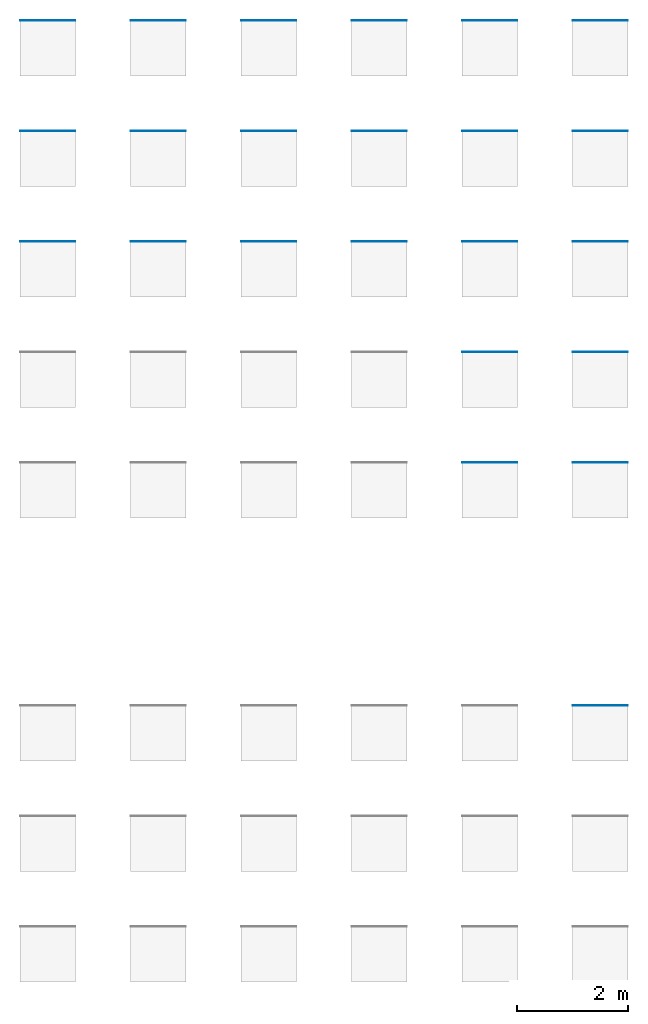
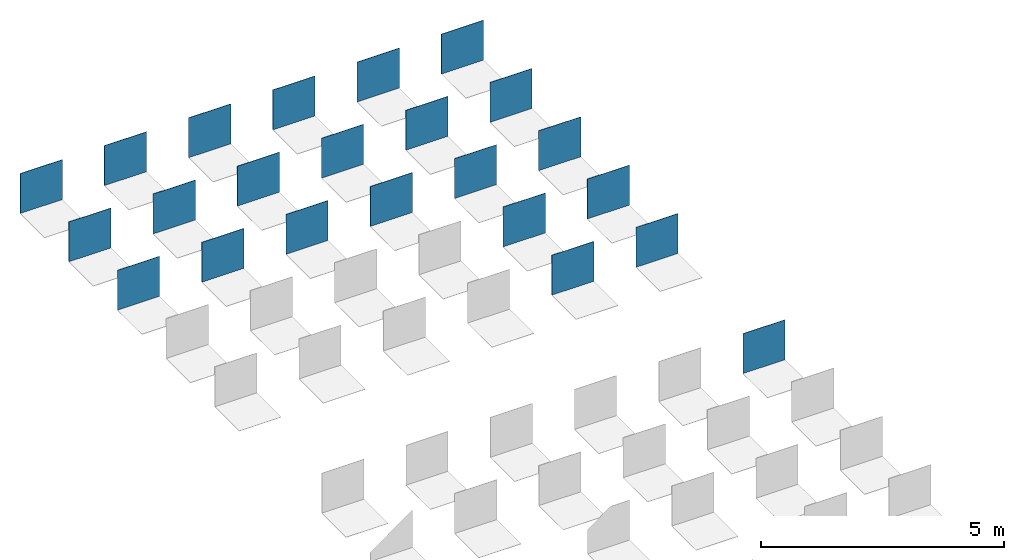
# One storey, part 2 of 4: 23 walls.
"""IFC2X3 building model written with IfcOpenShell, lengths in millimetres."""

from ifc_helpers import new_model, entity, si_unit, converted_unit, derived_unit, direction, frame, frame_2d, origin, place, context, subcontext, project, spatial, rectangle, extrude, material, layer, layer_set, layer_usage, type_object, element, save


model = new_model("IFC2X3")

# Units and contexts
model_context = context("Model", 3, precision=0.01, world=origin(), true_north=direction((6.12303176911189e-17, 1.0)))
body_context = subcontext(model_context, "Body", "Model", "MODEL_VIEW")
ifc_project = project(units=[si_unit("LENGTHUNIT", "METRE", prefix="MILLI"), si_unit("AREAUNIT", "SQUARE_METRE"), si_unit("VOLUMEUNIT", "CUBIC_METRE"), converted_unit("PLANEANGLEUNIT", "DEGREE", entity("IfcRatioMeasure", 0.0174532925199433), si_unit("PLANEANGLEUNIT", "RADIAN"), dimensions=[0, 0, 0, 0, 0, 0, 0]), si_unit("MASSUNIT", "GRAM", prefix="KILO"), derived_unit("MASSDENSITYUNIT", [(si_unit("MASSUNIT", "GRAM", prefix="KILO"), 1), (si_unit("LENGTHUNIT", "METRE"), -3)]), derived_unit("MOMENTOFINERTIAUNIT", [(si_unit("LENGTHUNIT", "METRE"), 4)]), si_unit("TIMEUNIT", "SECOND"), si_unit("FREQUENCYUNIT", "HERTZ"), si_unit("THERMODYNAMICTEMPERATUREUNIT", "DEGREE_CELSIUS"), derived_unit("THERMALTRANSMITTANCEUNIT", [(si_unit("MASSUNIT", "GRAM", prefix="KILO"), 1), (si_unit("THERMODYNAMICTEMPERATUREUNIT", "KELVIN"), -1), (si_unit("TIMEUNIT", "SECOND"), -3)]), derived_unit("VOLUMETRICFLOWRATEUNIT", [(si_unit("LENGTHUNIT", "METRE"), 3), (si_unit("TIMEUNIT", "SECOND"), -1)]), si_unit("ELECTRICCURRENTUNIT", "AMPERE"), si_unit("ELECTRICVOLTAGEUNIT", "VOLT"), si_unit("POWERUNIT", "WATT"), si_unit("FORCEUNIT", "NEWTON", prefix="KILO"), si_unit("ILLUMINANCEUNIT", "LUX"), si_unit("LUMINOUSFLUXUNIT", "LUMEN"), si_unit("LUMINOUSINTENSITYUNIT", "CANDELA"), derived_unit("USERDEFINED", [(si_unit("MASSUNIT", "GRAM", prefix="KILO"), -1), (si_unit("LENGTHUNIT", "METRE"), -2), (si_unit("TIMEUNIT", "SECOND"), 3), (si_unit("LUMINOUSFLUXUNIT", "LUMEN"), 1)]), derived_unit("LINEARVELOCITYUNIT", [(si_unit("LENGTHUNIT", "METRE"), 1), (si_unit("TIMEUNIT", "SECOND"), -1)]), si_unit("PRESSUREUNIT", "PASCAL"), derived_unit("USERDEFINED", [(si_unit("LENGTHUNIT", "METRE"), -2), (si_unit("MASSUNIT", "GRAM", prefix="KILO"), 1), (si_unit("TIMEUNIT", "SECOND"), -2)]), derived_unit("LINEARFORCEUNIT", [(si_unit("MASSUNIT", "GRAM", prefix="KILO"), 1), (si_unit("LENGTHUNIT", "METRE"), 1), (si_unit("TIMEUNIT", "SECOND"), -2), (si_unit("LENGTHUNIT", "METRE"), -1)]), derived_unit("PLANARFORCEUNIT", [(si_unit("MASSUNIT", "GRAM", prefix="KILO"), 1), (si_unit("LENGTHUNIT", "METRE"), 1), (si_unit("TIMEUNIT", "SECOND"), -2), (si_unit("LENGTHUNIT", "METRE"), -2)])], contexts=[model_context])

# Site, building, storey
site_placement = place(None, origin())
site = spatial("IfcSite", under=ifc_project, at=site_placement, Name="Default", CompositionType="ELEMENT")
building_placement = place(site_placement, origin())
building = spatial("IfcBuilding", under=site, at=building_placement, CompositionType="ELEMENT")
storey_placement = place(building_placement, origin())
storey = spatial("IfcBuildingStorey", under=building, at=storey_placement, Name="Level 1", CompositionType="ELEMENT", Elevation=0.0)

# Walls
ifc_material_1 = material(Name="REVIGRÉS-OMNISTONE-BASE-60x120-MATTRECT-BONE")
ifc_layer_1 = layer(ifc_material_1, 9.8)
ifc_layer_set_1 = layer_set([ifc_layer_1], Name="Basic Wall:REVIGRÉS-OMNISTONE-BASE-60X120-MATTRECT-BONE")
ifc_layer_usage_1 = layer_usage(ifc_layer_set_1, "AXIS2", "POSITIVE", -4.9)
wall_type_1 = type_object("IfcWallType", Name="Basic Wall:REVIGRÉS-OMNISTONE-BASE-60X120-MATTRECT-BONE", PredefinedType="STANDARD", material=ifc_layer_set_1)
wall_1_placement = place(storey_placement, frame((8.22388438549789, 14816.1034685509, 0.0)))
element("IfcWallStandardCase", 1, at=wall_1_placement, inside=storey, type_object=wall_type_1, material=ifc_layer_usage_1, Name="Basic Wall:REVIGRÉS-OMNISTONE-BASE-60X120-MATTRECT-BONE", ObjectType="Basic Wall:REVIGRÉS-OMNISTONE-BASE-60X120-MATTRECT-BONE", context=body_context, shape_type="SweptSolid", body=[
    extrude(rectangle(XDim=1000.0, YDim=9.8000000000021, at=frame_2d((500.0, 5.41344746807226e-13), x_axis=(-1.0, 0.0))), origin(), (0.0, 0.0, 1.0), 1000.0),
])
ifc_material_2 = material(Name="REVIGRÉS-OMNISTONE-BASE-45x90-MATTRECT-BONE")
ifc_layer_2 = layer(ifc_material_2, 10.5)
ifc_layer_set_2 = layer_set([ifc_layer_2], Name="Basic Wall:REVIGRÉS-OMNISTONE-BASE-45X90-MATTRECT-BONE")
ifc_layer_usage_2 = layer_usage(ifc_layer_set_2, "AXIS2", "POSITIVE", -5.25)
wall_type_2 = type_object("IfcWallType", Name="Basic Wall:REVIGRÉS-OMNISTONE-BASE-45X90-MATTRECT-BONE", PredefinedType="STANDARD", material=ifc_layer_set_2)
wall_2_placement = place(storey_placement, frame((8.22388438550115, 16816.4534685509, 0.0)))
element("IfcWallStandardCase", 2, at=wall_2_placement, inside=storey, type_object=wall_type_2, material=ifc_layer_usage_2, Name="Basic Wall:REVIGRÉS-OMNISTONE-BASE-45X90-MATTRECT-BONE", ObjectType="Basic Wall:REVIGRÉS-OMNISTONE-BASE-45X90-MATTRECT-BONE", context=body_context, shape_type="SweptSolid", body=[
    extrude(rectangle(XDim=1000.0, YDim=10.5000000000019, at=frame_2d((500.0, 5.41344746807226e-13), x_axis=(-1.0, 0.0))), origin(), (0.0, 0.0, 1.0), 1000.0),
])
ifc_material_3 = material(Name="REVIGRÉS-OMNISTONE-BASE-90x90-MATTRECT-BONE")
ifc_layer_3 = layer(ifc_material_3, 10.5)
ifc_layer_set_3 = layer_set([ifc_layer_3], Name="Basic Wall:REVIGRÉS-OMNISTONE-BASE-90X90-MATTRECT-BONE")
ifc_layer_usage_3 = layer_usage(ifc_layer_set_3, "AXIS2", "POSITIVE", -5.25)
wall_type_3 = type_object("IfcWallType", Name="Basic Wall:REVIGRÉS-OMNISTONE-BASE-90X90-MATTRECT-BONE", PredefinedType="STANDARD", material=ifc_layer_set_3)
wall_3_placement = place(storey_placement, frame((8.2238843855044, 18816.4534685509, 0.0)))
element("IfcWallStandardCase", 3, at=wall_3_placement, inside=storey, type_object=wall_type_3, material=ifc_layer_usage_3, Name="Basic Wall:REVIGRÉS-OMNISTONE-BASE-90X90-MATTRECT-BONE", ObjectType="Basic Wall:REVIGRÉS-OMNISTONE-BASE-90X90-MATTRECT-BONE", context=body_context, shape_type="SweptSolid", body=[
    extrude(rectangle(XDim=1000.0, YDim=10.5000000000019, at=frame_2d((500.0, 5.41344746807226e-13), x_axis=(-1.0, 0.0))), origin(), (0.0, 0.0, 1.0), 1000.0),
])
ifc_material_4 = material(Name="REVIGRÉS-OMNISTONE-BASE-60x120-SOFT-BONE")
ifc_layer_4 = layer(ifc_material_4, 9.8)
ifc_layer_set_4 = layer_set([ifc_layer_4], Name="Basic Wall:REVIGRÉS-OMNISTONE-BASE-60X120-SOFT-BONE")
ifc_layer_usage_4 = layer_usage(ifc_layer_set_4, "AXIS2", "POSITIVE", -4.9)
wall_type_4 = type_object("IfcWallType", Name="Basic Wall:REVIGRÉS-OMNISTONE-BASE-60X120-SOFT-BONE", PredefinedType="STANDARD", material=ifc_layer_set_4)
wall_4_placement = place(storey_placement, frame((2008.22388438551, 14816.1034685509, 0.0)))
element("IfcWallStandardCase", 4, at=wall_4_placement, inside=storey, type_object=wall_type_4, material=ifc_layer_usage_4, Name="Basic Wall:REVIGRÉS-OMNISTONE-BASE-60X120-SOFT-BONE", ObjectType="Basic Wall:REVIGRÉS-OMNISTONE-BASE-60X120-SOFT-BONE", context=body_context, shape_type="SweptSolid", body=[
    extrude(rectangle(XDim=1000.0, YDim=9.8000000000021, at=frame_2d((500.0, 5.41344746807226e-13), x_axis=(-1.0, 0.0))), origin(), (0.0, 0.0, 1.0), 1000.0),
])
ifc_material_5 = material(Name="REVIGRÉS-OMNISTONE-BASE-45x90-SOFT-BONE")
ifc_layer_5 = layer(ifc_material_5, 10.5)
ifc_layer_set_5 = layer_set([ifc_layer_5], Name="Basic Wall:REVIGRÉS-OMNISTONE-BASE-45X90-SOFT-BONE")
ifc_layer_usage_5 = layer_usage(ifc_layer_set_5, "AXIS2", "POSITIVE", -5.25)
wall_type_5 = type_object("IfcWallType", Name="Basic Wall:REVIGRÉS-OMNISTONE-BASE-45X90-SOFT-BONE", PredefinedType="STANDARD", material=ifc_layer_set_5)
wall_5_placement = place(storey_placement, frame((2008.22388438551, 16816.4534685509, 0.0)))
element("IfcWallStandardCase", 5, at=wall_5_placement, inside=storey, type_object=wall_type_5, material=ifc_layer_usage_5, Name="Basic Wall:REVIGRÉS-OMNISTONE-BASE-45X90-SOFT-BONE", ObjectType="Basic Wall:REVIGRÉS-OMNISTONE-BASE-45X90-SOFT-BONE", context=body_context, shape_type="SweptSolid", body=[
    extrude(rectangle(XDim=1000.0, YDim=10.5000000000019, at=frame_2d((500.0, 5.41344746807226e-13), x_axis=(-1.0, 0.0))), origin(), (0.0, 0.0, 1.0), 1000.0),
])
ifc_material_6 = material(Name="REVIGRÉS-OMNISTONE-BASE-90x90-SOFT-BONE")
ifc_layer_6 = layer(ifc_material_6, 10.5)
ifc_layer_set_6 = layer_set([ifc_layer_6], Name="Basic Wall:REVIGRÉS-OMNISTONE-BASE-90X90-SOFT-BONE")
ifc_layer_usage_6 = layer_usage(ifc_layer_set_6, "AXIS2", "POSITIVE", -5.25)
wall_type_6 = type_object("IfcWallType", Name="Basic Wall:REVIGRÉS-OMNISTONE-BASE-90X90-SOFT-BONE", PredefinedType="STANDARD", material=ifc_layer_set_6)
wall_6_placement = place(storey_placement, frame((2008.22388438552, 18816.4534685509, 0.0)))
element("IfcWallStandardCase", 6, at=wall_6_placement, inside=storey, type_object=wall_type_6, material=ifc_layer_usage_6, Name="Basic Wall:REVIGRÉS-OMNISTONE-BASE-90X90-SOFT-BONE", ObjectType="Basic Wall:REVIGRÉS-OMNISTONE-BASE-90X90-SOFT-BONE", context=body_context, shape_type="SweptSolid", body=[
    extrude(rectangle(XDim=1000.0, YDim=10.5000000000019, at=frame_2d((500.0, 5.41344746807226e-13), x_axis=(-1.0, 0.0))), origin(), (0.0, 0.0, 1.0), 1000.0),
])
ifc_material_7 = material(Name="REVIGRÉS-OMNISTONE-BASE-60x120-MATTRECT-ICE")
ifc_layer_7 = layer(ifc_material_7, 9.8)
ifc_layer_set_7 = layer_set([ifc_layer_7], Name="Basic Wall:REVIGRÉS-OMNISTONE-BASE-60X120-MATTRECT-ICE")
ifc_layer_usage_7 = layer_usage(ifc_layer_set_7, "AXIS2", "POSITIVE", -4.9)
wall_type_7 = type_object("IfcWallType", Name="Basic Wall:REVIGRÉS-OMNISTONE-BASE-60X120-MATTRECT-ICE", PredefinedType="STANDARD", material=ifc_layer_set_7)
wall_7_placement = place(storey_placement, frame((4008.22388438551, 14816.1034685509, 0.0)))
element("IfcWallStandardCase", 7, at=wall_7_placement, inside=storey, type_object=wall_type_7, material=ifc_layer_usage_7, Name="Basic Wall:REVIGRÉS-OMNISTONE-BASE-60X120-MATTRECT-ICE", ObjectType="Basic Wall:REVIGRÉS-OMNISTONE-BASE-60X120-MATTRECT-ICE", context=body_context, shape_type="SweptSolid", body=[
    extrude(rectangle(XDim=1000.0, YDim=9.8000000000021, at=frame_2d((500.0, 5.41344746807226e-13), x_axis=(-1.0, 0.0))), origin(), (0.0, 0.0, 1.0), 1000.0),
])
ifc_material_8 = material(Name="REVIGRÉS-OMNISTONE-BASE-45x90-MATTRECT-ICE")
ifc_layer_8 = layer(ifc_material_8, 10.5)
ifc_layer_set_8 = layer_set([ifc_layer_8], Name="Basic Wall:REVIGRÉS-OMNISTONE-BASE-45X90-MATTRECT-ICE")
ifc_layer_usage_8 = layer_usage(ifc_layer_set_8, "AXIS2", "POSITIVE", -5.25)
wall_type_8 = type_object("IfcWallType", Name="Basic Wall:REVIGRÉS-OMNISTONE-BASE-45X90-MATTRECT-ICE", PredefinedType="STANDARD", material=ifc_layer_set_8)
wall_8_placement = place(storey_placement, frame((4008.22388438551, 16816.4534685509, 0.0)))
element("IfcWallStandardCase", 8, at=wall_8_placement, inside=storey, type_object=wall_type_8, material=ifc_layer_usage_8, Name="Basic Wall:REVIGRÉS-OMNISTONE-BASE-45X90-MATTRECT-ICE", ObjectType="Basic Wall:REVIGRÉS-OMNISTONE-BASE-45X90-MATTRECT-ICE", context=body_context, shape_type="SweptSolid", body=[
    extrude(rectangle(XDim=1000.0, YDim=10.5000000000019, at=frame_2d((500.0, 5.41344746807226e-13), x_axis=(-1.0, 0.0))), origin(), (0.0, 0.0, 1.0), 1000.0),
])
ifc_material_9 = material(Name="REVIGRÉS-OMNISTONE-BASE-90x90-MATTRECT-ICE")
ifc_layer_9 = layer(ifc_material_9, 10.5)
ifc_layer_set_9 = layer_set([ifc_layer_9], Name="Basic Wall:REVIGRÉS-OMNISTONE-BASE-90X90-MATTRECT-ICE")
ifc_layer_usage_9 = layer_usage(ifc_layer_set_9, "AXIS2", "POSITIVE", -5.25)
wall_type_9 = type_object("IfcWallType", Name="Basic Wall:REVIGRÉS-OMNISTONE-BASE-90X90-MATTRECT-ICE", PredefinedType="STANDARD", material=ifc_layer_set_9)
wall_9_placement = place(storey_placement, frame((4008.22388438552, 18816.4534685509, 0.0)))
element("IfcWallStandardCase", 9, at=wall_9_placement, inside=storey, type_object=wall_type_9, material=ifc_layer_usage_9, Name="Basic Wall:REVIGRÉS-OMNISTONE-BASE-90X90-MATTRECT-ICE", ObjectType="Basic Wall:REVIGRÉS-OMNISTONE-BASE-90X90-MATTRECT-ICE", context=body_context, shape_type="SweptSolid", body=[
    extrude(rectangle(XDim=1000.0, YDim=10.5000000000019, at=frame_2d((500.0, 5.41344746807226e-13), x_axis=(-1.0, 0.0))), origin(), (0.0, 0.0, 1.0), 1000.0),
])
ifc_material_10 = material(Name="REVIGRÉS-OMNISTONE-BASE-60x120-SOFT-ICE")
ifc_layer_10 = layer(ifc_material_10, 9.8)
ifc_layer_set_10 = layer_set([ifc_layer_10], Name="Basic Wall:REVIGRÉS-OMNISTONE-BASE-60X120-SOFT-ICE")
ifc_layer_usage_10 = layer_usage(ifc_layer_set_10, "AXIS2", "POSITIVE", -4.9)
wall_type_10 = type_object("IfcWallType", Name="Basic Wall:REVIGRÉS-OMNISTONE-BASE-60X120-SOFT-ICE", PredefinedType="STANDARD", material=ifc_layer_set_10)
wall_10_placement = place(storey_placement, frame((6008.22388438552, 14816.1034685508, 0.0)))
element("IfcWallStandardCase", 10, at=wall_10_placement, inside=storey, type_object=wall_type_10, material=ifc_layer_usage_10, Name="Basic Wall:REVIGRÉS-OMNISTONE-BASE-60X120-SOFT-ICE", ObjectType="Basic Wall:REVIGRÉS-OMNISTONE-BASE-60X120-SOFT-ICE", context=body_context, shape_type="SweptSolid", body=[
    extrude(rectangle(XDim=1000.0, YDim=9.8000000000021, at=frame_2d((500.0, 5.41344746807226e-13), x_axis=(-1.0, 0.0))), origin(), (0.0, 0.0, 1.0), 1000.0),
])
ifc_material_11 = material(Name="REVIGRÉS-OMNISTONE-BASE-45x90-SOFT-ICE")
ifc_layer_11 = layer(ifc_material_11, 10.5)
ifc_layer_set_11 = layer_set([ifc_layer_11], Name="Basic Wall:REVIGRÉS-OMNISTONE-BASE-45X90-SOFT-ICE")
ifc_layer_usage_11 = layer_usage(ifc_layer_set_11, "AXIS2", "POSITIVE", -5.25)
wall_type_11 = type_object("IfcWallType", Name="Basic Wall:REVIGRÉS-OMNISTONE-BASE-45X90-SOFT-ICE", PredefinedType="STANDARD", material=ifc_layer_set_11)
wall_11_placement = place(storey_placement, frame((6008.22388438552, 16816.4534685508, 0.0)))
element("IfcWallStandardCase", 11, at=wall_11_placement, inside=storey, type_object=wall_type_11, material=ifc_layer_usage_11, Name="Basic Wall:REVIGRÉS-OMNISTONE-BASE-45X90-SOFT-ICE", ObjectType="Basic Wall:REVIGRÉS-OMNISTONE-BASE-45X90-SOFT-ICE", context=body_context, shape_type="SweptSolid", body=[
    extrude(rectangle(XDim=1000.0, YDim=10.5000000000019, at=frame_2d((500.0, 5.41344746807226e-13), x_axis=(-1.0, 0.0))), origin(), (0.0, 0.0, 1.0), 1000.0),
])
ifc_material_12 = material(Name="REVIGRÉS-OMNISTONE-BASE-90x90-SOFT-ICE")
ifc_layer_12 = layer(ifc_material_12, 10.5)
ifc_layer_set_12 = layer_set([ifc_layer_12], Name="Basic Wall:REVIGRÉS-OMNISTONE-BASE-90X90-SOFT-ICE")
ifc_layer_usage_12 = layer_usage(ifc_layer_set_12, "AXIS2", "POSITIVE", -5.25)
wall_type_12 = type_object("IfcWallType", Name="Basic Wall:REVIGRÉS-OMNISTONE-BASE-90X90-SOFT-ICE", PredefinedType="STANDARD", material=ifc_layer_set_12)
wall_12_placement = place(storey_placement, frame((6008.22388438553, 18816.4534685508, 0.0)))
element("IfcWallStandardCase", 12, at=wall_12_placement, inside=storey, type_object=wall_type_12, material=ifc_layer_usage_12, Name="Basic Wall:REVIGRÉS-OMNISTONE-BASE-90X90-SOFT-ICE", ObjectType="Basic Wall:REVIGRÉS-OMNISTONE-BASE-90X90-SOFT-ICE", context=body_context, shape_type="SweptSolid", body=[
    extrude(rectangle(XDim=1000.0, YDim=10.5000000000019, at=frame_2d((500.0, 5.41344746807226e-13), x_axis=(-1.0, 0.0))), origin(), (0.0, 0.0, 1.0), 1000.0),
])
ifc_material_13 = material(Name="REVIGRÉS-OMNISTONE-BASE-30x60-MATTRECT-IRON")
ifc_layer_13 = layer(ifc_material_13, 9.8)
ifc_layer_set_13 = layer_set([ifc_layer_13], Name="Basic Wall:REVIGRÉS-OMNISTONE-BASE-30X60-MATTRECT-IRON")
ifc_layer_usage_13 = layer_usage(ifc_layer_set_13, "AXIS2", "POSITIVE", -4.9)
wall_type_13 = type_object("IfcWallType", Name="Basic Wall:REVIGRÉS-OMNISTONE-BASE-30X60-MATTRECT-IRON", PredefinedType="STANDARD", material=ifc_layer_set_13)
wall_13_placement = place(storey_placement, frame((8008.22388438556, 10816.1034685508, 0.0)))
element("IfcWallStandardCase", 13, at=wall_13_placement, inside=storey, type_object=wall_type_13, material=ifc_layer_usage_13, Name="Basic Wall:REVIGRÉS-OMNISTONE-BASE-30X60-MATTRECT-IRON", ObjectType="Basic Wall:REVIGRÉS-OMNISTONE-BASE-30X60-MATTRECT-IRON", context=body_context, shape_type="SweptSolid", body=[
    extrude(rectangle(XDim=1000.0, YDim=9.8000000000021, at=frame_2d((500.0, 5.41344746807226e-13), x_axis=(-1.0, 0.0))), origin(), (0.0, 0.0, 1.0), 1000.0),
])
ifc_material_14 = material(Name="REVIGRÉS-OMNISTONE-BASE-60x60-MATTRECT-IRON")
ifc_layer_14 = layer(ifc_material_14, 9.8)
ifc_layer_set_14 = layer_set([ifc_layer_14], Name="Basic Wall:REVIGRÉS-OMNISTONE-BASE-60X60-MATTRECT-IRON")
ifc_layer_usage_14 = layer_usage(ifc_layer_set_14, "AXIS2", "POSITIVE", -4.9)
wall_type_14 = type_object("IfcWallType", Name="Basic Wall:REVIGRÉS-OMNISTONE-BASE-60X60-MATTRECT-IRON", PredefinedType="STANDARD", material=ifc_layer_set_14)
wall_14_placement = place(storey_placement, frame((8008.22388438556, 12816.1034685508, 0.0)))
element("IfcWallStandardCase", 14, at=wall_14_placement, inside=storey, type_object=wall_type_14, material=ifc_layer_usage_14, Name="Basic Wall:REVIGRÉS-OMNISTONE-BASE-60X60-MATTRECT-IRON", ObjectType="Basic Wall:REVIGRÉS-OMNISTONE-BASE-60X60-MATTRECT-IRON", context=body_context, shape_type="SweptSolid", body=[
    extrude(rectangle(XDim=1000.0, YDim=9.8000000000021, at=frame_2d((500.0, 5.41344746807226e-13), x_axis=(-1.0, 0.0))), origin(), (0.0, 0.0, 1.0), 1000.0),
])
ifc_material_15 = material(Name="REVIGRÉS-OMNISTONE-BASE-60x120-MATTRECT-IRON")
ifc_layer_15 = layer(ifc_material_15, 9.8)
ifc_layer_set_15 = layer_set([ifc_layer_15], Name="Basic Wall:REVIGRÉS-OMNISTONE-BASE-60X120-MATTRECT-IRON")
ifc_layer_usage_15 = layer_usage(ifc_layer_set_15, "AXIS2", "POSITIVE", -4.9)
wall_type_15 = type_object("IfcWallType", Name="Basic Wall:REVIGRÉS-OMNISTONE-BASE-60X120-MATTRECT-IRON", PredefinedType="STANDARD", material=ifc_layer_set_15)
wall_15_placement = place(storey_placement, frame((8008.22388438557, 14816.1034685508, 0.0)))
element("IfcWallStandardCase", 15, at=wall_15_placement, inside=storey, type_object=wall_type_15, material=ifc_layer_usage_15, Name="Basic Wall:REVIGRÉS-OMNISTONE-BASE-60X120-MATTRECT-IRON", ObjectType="Basic Wall:REVIGRÉS-OMNISTONE-BASE-60X120-MATTRECT-IRON", context=body_context, shape_type="SweptSolid", body=[
    extrude(rectangle(XDim=1000.0, YDim=9.8000000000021, at=frame_2d((500.0, 5.41344746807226e-13), x_axis=(-1.0, 0.0))), origin(), (0.0, 0.0, 1.0), 1000.0),
])
ifc_material_16 = material(Name="REVIGRÉS-OMNISTONE-BASE-45x90-MATTRECT-IRON")
ifc_layer_16 = layer(ifc_material_16, 10.5)
ifc_layer_set_16 = layer_set([ifc_layer_16], Name="Basic Wall:REVIGRÉS-OMNISTONE-BASE-45X90-MATTRECT-IRON")
ifc_layer_usage_16 = layer_usage(ifc_layer_set_16, "AXIS2", "POSITIVE", -5.25)
wall_type_16 = type_object("IfcWallType", Name="Basic Wall:REVIGRÉS-OMNISTONE-BASE-45X90-MATTRECT-IRON", PredefinedType="STANDARD", material=ifc_layer_set_16)
wall_16_placement = place(storey_placement, frame((8008.22388438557, 16816.4534685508, 0.0)))
element("IfcWallStandardCase", 16, at=wall_16_placement, inside=storey, type_object=wall_type_16, material=ifc_layer_usage_16, Name="Basic Wall:REVIGRÉS-OMNISTONE-BASE-45X90-MATTRECT-IRON", ObjectType="Basic Wall:REVIGRÉS-OMNISTONE-BASE-45X90-MATTRECT-IRON", context=body_context, shape_type="SweptSolid", body=[
    extrude(rectangle(XDim=1000.0, YDim=10.5000000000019, at=frame_2d((500.0, 5.41344746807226e-13), x_axis=(-1.0, 0.0))), origin(), (0.0, 0.0, 1.0), 1000.0),
])
ifc_material_17 = material(Name="REVIGRÉS-OMNISTONE-BASE-90x90-MATTRECT-IRON")
ifc_layer_17 = layer(ifc_material_17, 10.5)
ifc_layer_set_17 = layer_set([ifc_layer_17], Name="Basic Wall:REVIGRÉS-OMNISTONE-BASE-90X90-MATTRECT-IRON")
ifc_layer_usage_17 = layer_usage(ifc_layer_set_17, "AXIS2", "POSITIVE", -5.25)
wall_type_17 = type_object("IfcWallType", Name="Basic Wall:REVIGRÉS-OMNISTONE-BASE-90X90-MATTRECT-IRON", PredefinedType="STANDARD", material=ifc_layer_set_17)
wall_17_placement = place(storey_placement, frame((8008.22388438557, 18816.4534685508, 0.0)))
element("IfcWallStandardCase", 17, at=wall_17_placement, inside=storey, type_object=wall_type_17, material=ifc_layer_usage_17, Name="Basic Wall:REVIGRÉS-OMNISTONE-BASE-90X90-MATTRECT-IRON", ObjectType="Basic Wall:REVIGRÉS-OMNISTONE-BASE-90X90-MATTRECT-IRON", context=body_context, shape_type="SweptSolid", body=[
    extrude(rectangle(XDim=1000.0, YDim=10.5000000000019, at=frame_2d((500.0, 5.41344746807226e-13), x_axis=(-1.0, 0.0))), origin(), (0.0, 0.0, 1.0), 1000.0),
])
ifc_material_18 = material(Name="REVIGRÉS-OMNISTONE-BASE-30x60-SOFT-IRON")
ifc_layer_18 = layer(ifc_material_18, 9.8)
ifc_layer_set_18 = layer_set([ifc_layer_18], Name="Basic Wall:REVIGRÉS-OMNISTONE-BASE-30X60-SOFT-IRON")
ifc_layer_usage_18 = layer_usage(ifc_layer_set_18, "AXIS2", "POSITIVE", -4.9)
wall_type_18 = type_object("IfcWallType", Name="Basic Wall:REVIGRÉS-OMNISTONE-BASE-30X60-SOFT-IRON", PredefinedType="STANDARD", material=ifc_layer_set_18)
wall_18_placement = place(storey_placement, frame((10008.2238843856, 10816.1034685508, 0.0)))
element("IfcWallStandardCase", 18, at=wall_18_placement, inside=storey, type_object=wall_type_18, material=ifc_layer_usage_18, Name="Basic Wall:REVIGRÉS-OMNISTONE-BASE-30X60-SOFT-IRON", ObjectType="Basic Wall:REVIGRÉS-OMNISTONE-BASE-30X60-SOFT-IRON", context=body_context, shape_type="SweptSolid", body=[
    extrude(rectangle(XDim=1000.0, YDim=9.8000000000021, at=frame_2d((500.0, 5.41344746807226e-13), x_axis=(-1.0, 0.0))), origin(), (0.0, 0.0, 1.0), 1000.0),
])
ifc_material_19 = material(Name="REVIGRÉS-OMNISTONE-BASE-60x60-SOFT-IRON")
ifc_layer_19 = layer(ifc_material_19, 9.8)
ifc_layer_set_19 = layer_set([ifc_layer_19], Name="Basic Wall:REVIGRÉS-OMNISTONE-BASE-60X60-SOFT-IRON")
ifc_layer_usage_19 = layer_usage(ifc_layer_set_19, "AXIS2", "POSITIVE", -4.9)
wall_type_19 = type_object("IfcWallType", Name="Basic Wall:REVIGRÉS-OMNISTONE-BASE-60X60-SOFT-IRON", PredefinedType="STANDARD", material=ifc_layer_set_19)
wall_19_placement = place(storey_placement, frame((10008.2238843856, 12816.1034685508, 0.0)))
element("IfcWallStandardCase", 19, at=wall_19_placement, inside=storey, type_object=wall_type_19, material=ifc_layer_usage_19, Name="Basic Wall:REVIGRÉS-OMNISTONE-BASE-60X60-SOFT-IRON", ObjectType="Basic Wall:REVIGRÉS-OMNISTONE-BASE-60X60-SOFT-IRON", context=body_context, shape_type="SweptSolid", body=[
    extrude(rectangle(XDim=1000.0, YDim=9.8000000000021, at=frame_2d((500.0, 5.41344746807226e-13), x_axis=(-1.0, 0.0))), origin(), (0.0, 0.0, 1.0), 1000.0),
])
ifc_material_20 = material(Name="REVIGRÉS-OMNISTONE-BASE-60x120-SOFT-IRON")
ifc_layer_20 = layer(ifc_material_20, 9.8)
ifc_layer_set_20 = layer_set([ifc_layer_20], Name="Basic Wall:REVIGRÉS-OMNISTONE-BASE-60X120-SOFT-IRON")
ifc_layer_usage_20 = layer_usage(ifc_layer_set_20, "AXIS2", "POSITIVE", -4.9)
wall_type_20 = type_object("IfcWallType", Name="Basic Wall:REVIGRÉS-OMNISTONE-BASE-60X120-SOFT-IRON", PredefinedType="STANDARD", material=ifc_layer_set_20)
wall_20_placement = place(storey_placement, frame((10008.2238843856, 14816.1034685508, 0.0)))
element("IfcWallStandardCase", 20, at=wall_20_placement, inside=storey, type_object=wall_type_20, material=ifc_layer_usage_20, Name="Basic Wall:REVIGRÉS-OMNISTONE-BASE-60X120-SOFT-IRON", ObjectType="Basic Wall:REVIGRÉS-OMNISTONE-BASE-60X120-SOFT-IRON", context=body_context, shape_type="SweptSolid", body=[
    extrude(rectangle(XDim=1000.0, YDim=9.8000000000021, at=frame_2d((500.0, 5.41344746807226e-13), x_axis=(-1.0, 0.0))), origin(), (0.0, 0.0, 1.0), 1000.0),
])
ifc_material_21 = material(Name="REVIGRÉS-OMNISTONE-BASE-45x90-SOFT-IRON")
ifc_layer_21 = layer(ifc_material_21, 10.5)
ifc_layer_set_21 = layer_set([ifc_layer_21], Name="Basic Wall:REVIGRÉS-OMNISTONE-BASE-45X90-SOFT-IRON")
ifc_layer_usage_21 = layer_usage(ifc_layer_set_21, "AXIS2", "POSITIVE", -5.25)
wall_type_21 = type_object("IfcWallType", Name="Basic Wall:REVIGRÉS-OMNISTONE-BASE-45X90-SOFT-IRON", PredefinedType="STANDARD", material=ifc_layer_set_21)
wall_21_placement = place(storey_placement, frame((10008.2238843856, 16816.4534685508, 0.0)))
element("IfcWallStandardCase", 21, at=wall_21_placement, inside=storey, type_object=wall_type_21, material=ifc_layer_usage_21, Name="Basic Wall:REVIGRÉS-OMNISTONE-BASE-45X90-SOFT-IRON", ObjectType="Basic Wall:REVIGRÉS-OMNISTONE-BASE-45X90-SOFT-IRON", context=body_context, shape_type="SweptSolid", body=[
    extrude(rectangle(XDim=1000.0, YDim=10.5000000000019, at=frame_2d((500.0, 5.41344746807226e-13), x_axis=(-1.0, 0.0))), origin(), (0.0, 0.0, 1.0), 1000.0),
])
ifc_material_22 = material(Name="REVIGRÉS-OMNISTONE-BASE-90x90-SOFT-IRON")
ifc_layer_22 = layer(ifc_material_22, 10.5)
ifc_layer_set_22 = layer_set([ifc_layer_22], Name="Basic Wall:REVIGRÉS-OMNISTONE-BASE-90X90-SOFT-IRON")
ifc_layer_usage_22 = layer_usage(ifc_layer_set_22, "AXIS2", "POSITIVE", -5.25)
wall_type_22 = type_object("IfcWallType", Name="Basic Wall:REVIGRÉS-OMNISTONE-BASE-90X90-SOFT-IRON", PredefinedType="STANDARD", material=ifc_layer_set_22)
wall_22_placement = place(storey_placement, frame((10008.2238843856, 18816.4534685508, 0.0)))
element("IfcWallStandardCase", 22, at=wall_22_placement, inside=storey, type_object=wall_type_22, material=ifc_layer_usage_22, Name="Basic Wall:REVIGRÉS-OMNISTONE-BASE-90X90-SOFT-IRON", ObjectType="Basic Wall:REVIGRÉS-OMNISTONE-BASE-90X90-SOFT-IRON", context=body_context, shape_type="SweptSolid", body=[
    extrude(rectangle(XDim=1000.0, YDim=10.5000000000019, at=frame_2d((500.0, 5.41344746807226e-13), x_axis=(-1.0, 0.0))), origin(), (0.0, 0.0, 1.0), 1000.0),
])
ifc_material_23 = material(Name="REVIGRÉS-OMNISTONE-BASE-90x90-SOFT-ROPE")
ifc_layer_23 = layer(ifc_material_23, 10.5)
ifc_layer_set_23 = layer_set([ifc_layer_23], Name="Basic Wall:REVIGRÉS-OMNISTONE-BASE-90X90-SOFT-ROPE")
ifc_layer_usage_23 = layer_usage(ifc_layer_set_23, "AXIS2", "POSITIVE", -5.25)
wall_type_23 = type_object("IfcWallType", Name="Basic Wall:REVIGRÉS-OMNISTONE-BASE-90X90-SOFT-ROPE", PredefinedType="STANDARD", material=ifc_layer_set_23)
wall_23_placement = place(storey_placement, frame((10008.2238843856, 6416.45346855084, 0.0)))
element("IfcWallStandardCase", 23, at=wall_23_placement, inside=storey, type_object=wall_type_23, material=ifc_layer_usage_23, Name="Basic Wall:REVIGRÉS-OMNISTONE-BASE-90X90-SOFT-ROPE", ObjectType="Basic Wall:REVIGRÉS-OMNISTONE-BASE-90X90-SOFT-ROPE", context=body_context, shape_type="SweptSolid", body=[
    extrude(rectangle(XDim=1000.0, YDim=10.4999999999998, at=frame_2d((500.0, 0.0), x_axis=(-1.0, 0.0))), origin(), (0.0, 0.0, 1.0), 1000.0),
])

save(model, "model.ifc")
